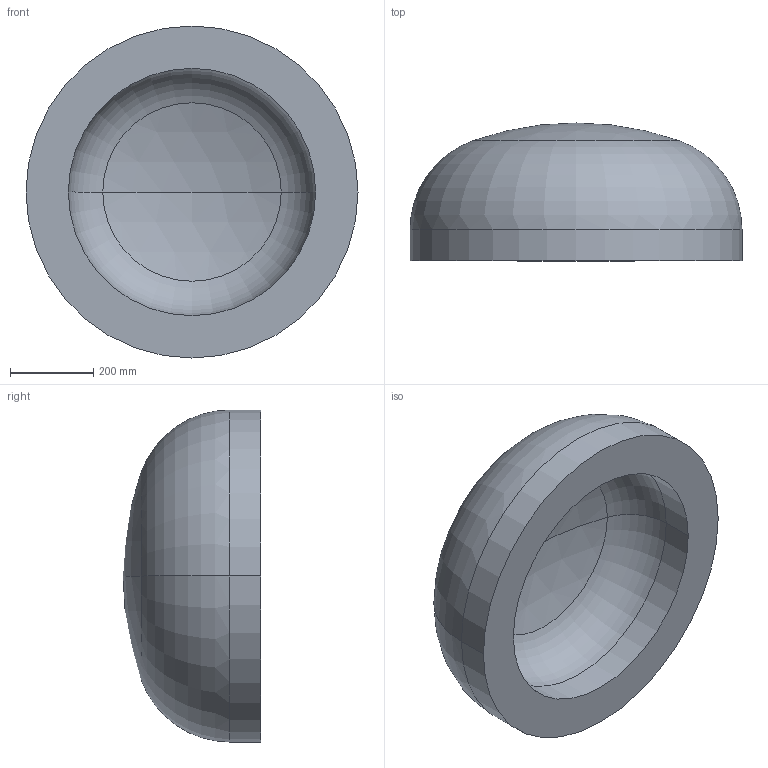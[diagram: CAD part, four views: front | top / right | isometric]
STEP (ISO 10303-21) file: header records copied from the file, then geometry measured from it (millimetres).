
FILE_DESCRIPTION (( 'STEP AP203' ), '1' );
FILE_NAME ('DIN 28013 Korbbogenform_-_Boden DIN 28013 - 800 x 75 - I - s=102.step', '2016-07-01T08:23:53', ( '' ), ( '' ), 'SwSTEP 2.0', 'SolidWorks 2013', '' );
FILE_SCHEMA (( 'CONFIG_CONTROL_DESIGN' ));
Length unit declared in the file: millimetre
Products named in the file (1): DIN 28013 Korbbogenform_-_Boden DIN 28013 - 800 x 75 - I - s=102
Bounding box: 800 x 331.93 x 800 mm (x, y, z)
Volume: 77778516.4 mm3; surface area: 1770527.7 mm2
Topology: 1 solids, 1 shells, 13 faces, 24 edges, 14 vertices
Faces by surface type: torus 4, cylinder 4, sphere 4, plane 1
Entity records: 407 total; most frequent: DIRECTION 72, CARTESIAN_POINT 52, ORIENTED_EDGE 48, AXIS2_PLACEMENT_3D 34, EDGE_CURVE 24, CIRCLE 20, VERTEX_POINT 14, EDGE_LOOP 14
